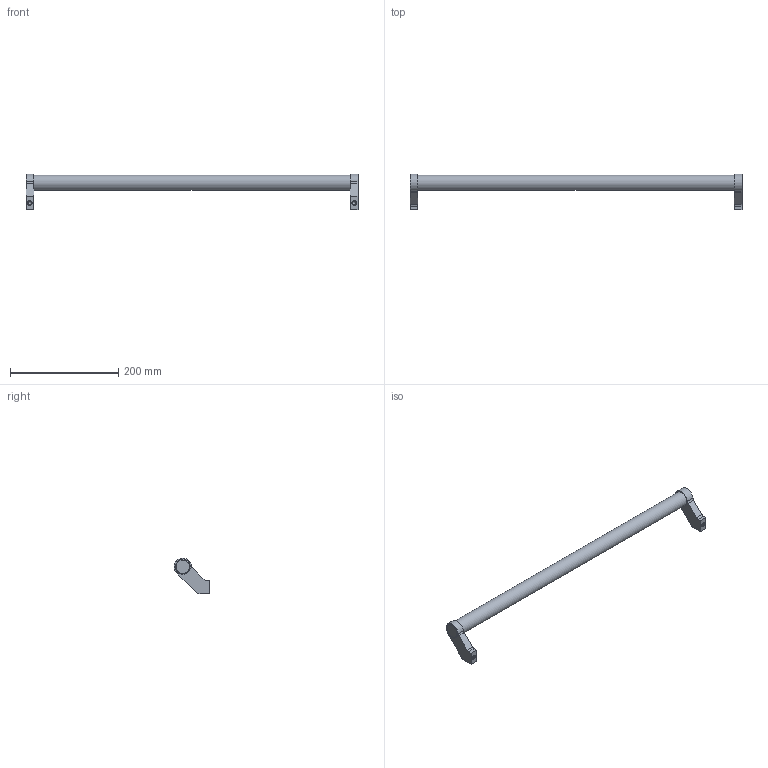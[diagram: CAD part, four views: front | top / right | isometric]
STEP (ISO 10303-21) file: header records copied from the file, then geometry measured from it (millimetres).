
FILE_DESCRIPTION( ( 'STEP AP203' ), '1' );
FILE_NAME( 'C:/Temp/Ganter_Step_05_03_2020/data/1_2/gn333/Tubular handle GN 333-28-600-A-ES.stp', '2020-03-05T10:16:19', ( 'License CC BY-ND 4.0' ), ( 'CADENAS' ), ' ', 'PARTsolutions', ' ' );
FILE_SCHEMA( ( 'CONFIG_CONTROL_DESIGN' ) );
Length unit declared in the file: millimetre
Products named in the file (1): _Tubular handle GN 333-28-600-A-ES
Bounding box: 614 x 65.95 x 65.97 mm (x, y, z)
Volume: 421372.3 mm3; surface area: 66245.6 mm2
Topology: 1 solids, 1 shells, 47 faces, 110 edges, 71 vertices
Faces by surface type: plane 26, cylinder 15, cone 4, torus 2
Full cylindrical faces by diameter (mm): 6.647 x2, 8.5 x2, 28 x3
Entity records: 1348 total; most frequent: CARTESIAN_POINT 278, DIRECTION 218, ORIENTED_EDGE 188, EDGE_CURVE 94, AXIS2_PLACEMENT_3D 84, VERTEX_POINT 68, EDGE_LOOP 64, FACE_OUTER_BOUND 54
